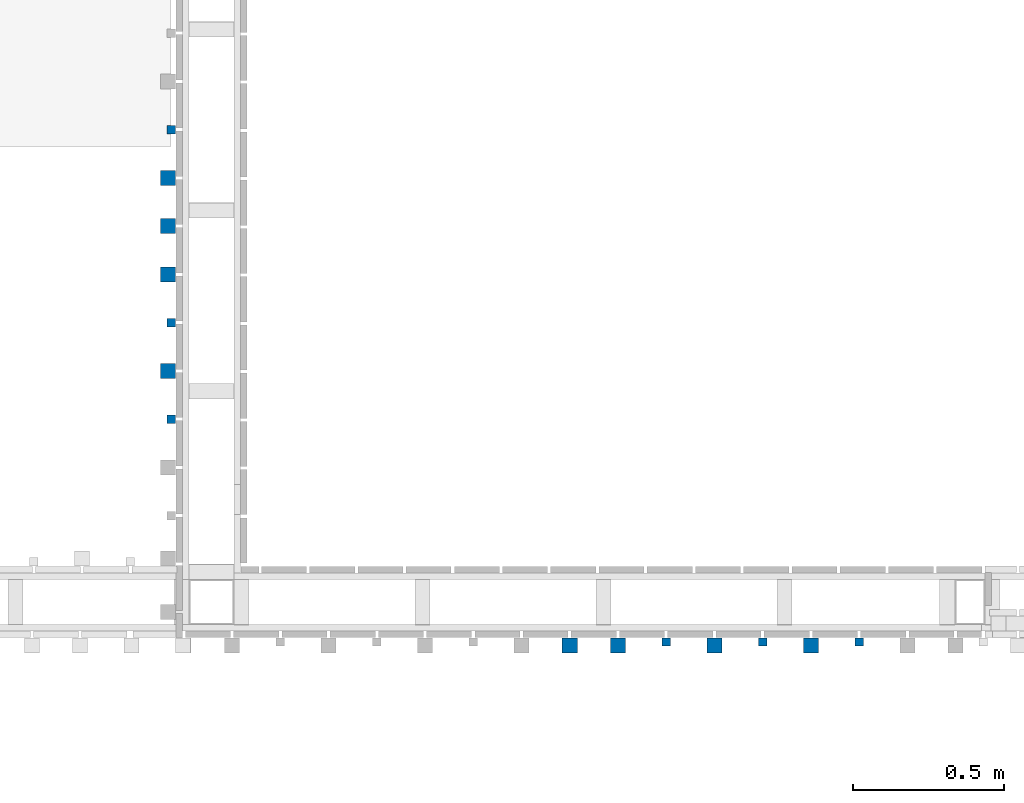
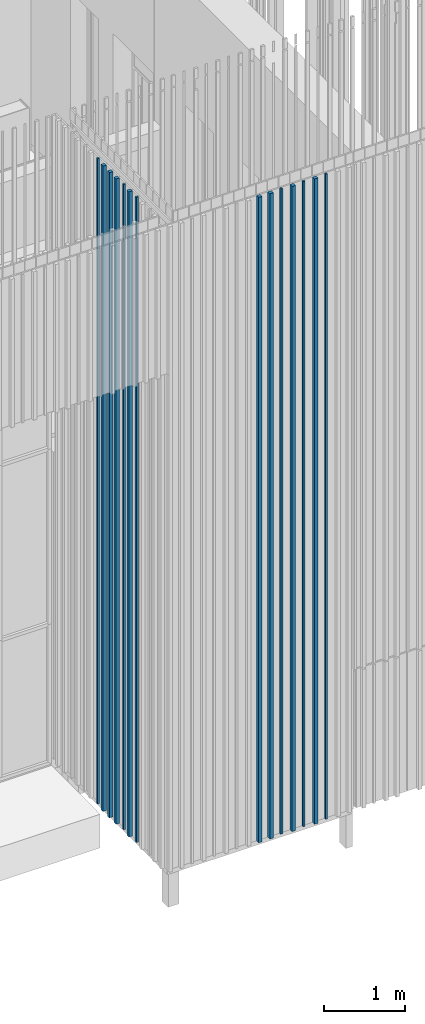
# One storey, part 13 of 390: 14 walls.
"""IFC2X3 building model written with IfcOpenShell, lengths in millimetres."""

from ifc_helpers import new_model, entity, si_unit, converted_unit, derived_unit, money_unit, direction, frame, origin_with_axes, origin_2d_with_axis, place, context, subcontext, project, spatial, rectangle, extrude, material, type_object, element, save


model = new_model("IFC2X3")

# Units and contexts
model_context = context("Model", 3, precision=1e-05, world=origin_with_axes(), true_north=direction((0.0, 1.0)))
body_context = subcontext(model_context, "Body", "Model", "MODEL_VIEW")
ifc_project = project(units=[si_unit("LENGTHUNIT", "METRE", prefix="MILLI"), si_unit("AREAUNIT", "SQUARE_METRE"), si_unit("VOLUMEUNIT", "CUBIC_METRE"), converted_unit("PLANEANGLEUNIT", "DEGREE", entity("IfcPlaneAngleMeasure", 0.0174532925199), si_unit("PLANEANGLEUNIT", "RADIAN"), dimensions=[0, 0, 0, 0, 0, 0, 0]), si_unit("SOLIDANGLEUNIT", "STERADIAN"), money_unit("EUR"), converted_unit("TIMEUNIT", "Year", entity("IfcTimeMeasure", 31556926.0), si_unit("TIMEUNIT", "SECOND"), dimensions=[0, 0, 1, 0, 0, 0, 0]), si_unit("MASSUNIT", "GRAM", prefix="KILO"), si_unit("THERMODYNAMICTEMPERATUREUNIT", "DEGREE_CELSIUS"), si_unit("LUMINOUSINTENSITYUNIT", "LUMEN"), si_unit("ENERGYUNIT", "JOULE", prefix="MEGA"), derived_unit("THERMALCONDUCTANCEUNIT", [(si_unit("POWERUNIT", "WATT"), 1), (si_unit("LENGTHUNIT", "METRE"), -1), (si_unit("THERMODYNAMICTEMPERATUREUNIT", "KELVIN"), -1)]), derived_unit("SPECIFICHEATCAPACITYUNIT", [(si_unit("ENERGYUNIT", "JOULE"), 1), (si_unit("MASSUNIT", "GRAM", prefix="KILO"), -1), (si_unit("THERMODYNAMICTEMPERATUREUNIT", "KELVIN"), -1)]), derived_unit("MASSDENSITYUNIT", [(si_unit("MASSUNIT", "GRAM", prefix="KILO"), 1), (si_unit("VOLUMEUNIT", "CUBIC_METRE"), -1)])], contexts=[model_context])

# Site, building, storey
site_placement = place(None, origin_with_axes())
site = spatial("IfcSite", under=ifc_project, at=site_placement, Name="Site", CompositionType="ELEMENT")
building_placement = place(site_placement, origin_with_axes())
building = spatial("IfcBuilding", under=site, at=building_placement, Name="Building", CompositionType="ELEMENT")
storey_placement = place(building_placement, origin_with_axes())
storey = spatial("IfcBuildingStorey", under=building, at=storey_placement, Name="1 korrus", CompositionType="ELEMENT", Elevation=0.0)

# Walls
ifc_material = material(Name="Site specified")
wall_type = type_object("IfcWallType", Name="Puitfassaadi ribistik", PredefinedType="NOTDEFINED")
wall_1_placement = place(storey_placement, frame((135003.000037, 42454.9999649, 100.000000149), z_axis=(0.0, 0.0, 1.0), x_axis=(-1.0, 0.0, 0.0)))
element("IfcWall", 1, at=wall_1_placement, inside=storey, type_object=wall_type, material=ifc_material, Name="Site specified", context=body_context, shape_type="SweptSolid", body=[
    extrude(rectangle(XDim=50.0, YDim=50.0, at=origin_2d_with_axis()), origin_with_axes(), (0.0, 0.0, 1.0), 9764.99999985),
])
wall_2_placement = place(storey_placement, frame((135163.000037, 42465.9999649, 100.000000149), z_axis=(0.0, 0.0, 1.0), x_axis=(-1.0, 0.0, 0.0)))
element("IfcWall", 2, at=wall_2_placement, inside=storey, type_object=wall_type, material=ifc_material, Name="Site specified", context=body_context, shape_type="SweptSolid", body=[
    extrude(rectangle(XDim=28.0, YDim=28.0, at=origin_2d_with_axis()), origin_with_axes(), (0.0, 0.0, 1.0), 9764.99999985),
])
for number, where, z_axis, x_axis, name in (
    (3, (132870.999994, 43685.0000099, 100.000000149), (0.0, 0.0, 1.0), (-1.0, 0.0, 0.0), "Site specified"),
    (4, (132870.999987, 43365.0000099, 100.000000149), (0.0, 0.0, 1.0), (-1.0, 0.0, 0.0), "Site specified"),
):
    element("IfcWall", number, at=place(storey_placement, frame(where, z_axis=z_axis, x_axis=x_axis)), inside=storey, type_object=wall_type, material=ifc_material, Name=name, context=body_context, shape_type="SweptSolid", body=[
        extrude(rectangle(XDim=50.0, YDim=49.9999999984, at=origin_2d_with_axis()), origin_with_axes(), (0.0, 0.0, 1.0), 9764.99999985),
    ])
for number, where, z_axis, x_axis, name in (
    (5, (132882.000037, 43205.0000099, 100.000000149), (0.0, 0.0, 1.0), (-1.0, 0.0, 0.0), "Site specified"),
    (6, (132882.000044, 43525.0000099, 100.000000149), (0.0, 0.0, 1.0), (-1.0, 0.0, 0.0), "Site specified"),
    (7, (134843.000037, 42465.9999649, 100.000000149), (0.0, 0.0, 1.0), (-1.0, 0.0, 0.0), "Site specified"),
):
    element("IfcWall", number, at=place(storey_placement, frame(where, z_axis=z_axis, x_axis=x_axis)), inside=storey, type_object=wall_type, material=ifc_material, Name=name, context=body_context, shape_type="SweptSolid", body=[
        extrude(rectangle(XDim=28.0, YDim=28.0, at=origin_2d_with_axis()), origin_with_axes(), (0.0, 0.0, 1.0), 9764.99999985),
    ])
wall_3_placement = place(storey_placement, frame((132871.000044, 43845.0000099, 100.000000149), z_axis=(0.0, 0.0, 1.0), x_axis=(-1.0, 0.0, 0.0)))
element("IfcWall", 8, at=wall_3_placement, inside=storey, type_object=wall_type, material=ifc_material, Name="Site specified", context=body_context, shape_type="SweptSolid", body=[
    extrude(rectangle(XDim=50.0, YDim=49.9999999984, at=origin_2d_with_axis()), origin_with_axes(), (0.0, 0.0, 1.0), 9764.99999985),
])
wall_4_placement = place(storey_placement, frame((134523.000037, 42465.9999724, 100.000000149), z_axis=(0.0, 0.0, 1.0), x_axis=(-1.0, 0.0, 0.0)))
element("IfcWall", 9, at=wall_4_placement, inside=storey, type_object=wall_type, material=ifc_material, Name="Site specified", context=body_context, shape_type="SweptSolid", body=[
    extrude(rectangle(XDim=28.0, YDim=28.0, at=origin_2d_with_axis()), origin_with_axes(), (0.0, 0.0, 1.0), 9764.99999985),
])
for number, where, z_axis, x_axis, name in (
    (10, (134363.000037, 42454.9999225, 100.000000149), (0.0, 0.0, 1.0), (-1.0, 0.0, 0.0), "Site specified"),
    (11, (134203.000037, 42454.9999724, 100.000000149), (0.0, 0.0, 1.0), (-1.0, 0.0, 0.0), "Site specified"),
    (12, (134683.000037, 42454.999915, 100.000000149), (0.0, 0.0, 1.0), (-1.0, 0.0, 0.0), "Site specified"),
):
    element("IfcWall", number, at=place(storey_placement, frame(where, z_axis=z_axis, x_axis=x_axis)), inside=storey, type_object=wall_type, material=ifc_material, Name=name, context=body_context, shape_type="SweptSolid", body=[
        extrude(rectangle(XDim=50.0, YDim=50.0, at=origin_2d_with_axis()), origin_with_axes(), (0.0, 0.0, 1.0), 9764.99999985),
    ])
wall_5_placement = place(storey_placement, frame((132882.000044, 44165.0000099, 100.000000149), z_axis=(0.0, 0.0, 1.0), x_axis=(-1.0, 0.0, 0.0)))
element("IfcWall", 13, at=wall_5_placement, inside=storey, type_object=wall_type, material=ifc_material, Name="Site specified", context=body_context, shape_type="SweptSolid", body=[
    extrude(rectangle(XDim=28.0, YDim=28.0, at=origin_2d_with_axis()), origin_with_axes(), (0.0, 0.0, 1.0), 9764.99999985),
])
wall_6_placement = place(storey_placement, frame((132871.000044, 44005.0000099, 100.000000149), z_axis=(0.0, 0.0, 1.0), x_axis=(-1.0, 0.0, 0.0)))
element("IfcWall", 14, at=wall_6_placement, inside=storey, type_object=wall_type, material=ifc_material, Name="Site specified", context=body_context, shape_type="SweptSolid", body=[
    extrude(rectangle(XDim=50.0, YDim=49.9999999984, at=origin_2d_with_axis()), origin_with_axes(), (0.0, 0.0, 1.0), 9764.99999985),
])

save(model, "model.ifc")
